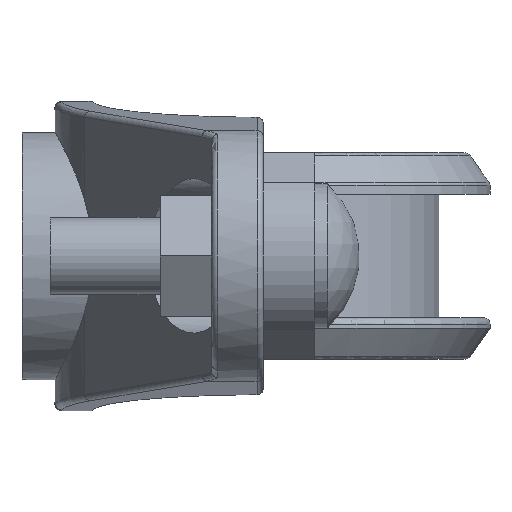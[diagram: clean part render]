
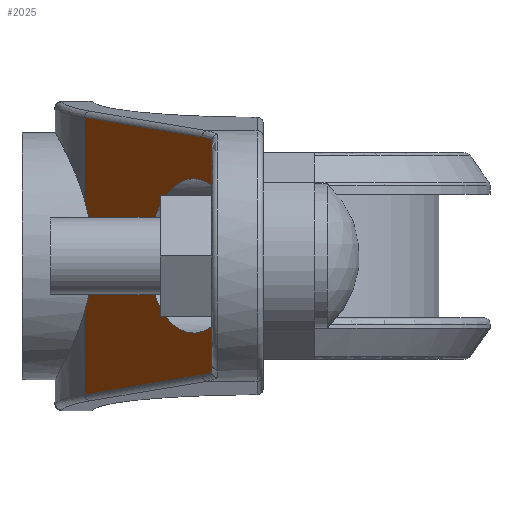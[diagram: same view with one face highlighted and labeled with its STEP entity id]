
A CAD part, left-side view. The second image highlights one B-rep face of the part: STEP entity #2025.
In plain terms, the highlighted planar face has unit normal (-0.5, 0.866, 0).
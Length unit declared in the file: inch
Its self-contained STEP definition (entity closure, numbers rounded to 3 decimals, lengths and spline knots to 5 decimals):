
#99=PLANE('',#2225);
#114=LINE('',#3108,#253);
#116=LINE('',#3179,#255);
#119=LINE('',#3291,#258);
#120=LINE('',#3294,#259);
#132=LINE('',#3337,#271);
#227=LINE('',#3849,#366);
#253=VECTOR('',#2332,0.3937);
#255=VECTOR('',#2348,0.3937);
#258=VECTOR('',#2375,0.3937);
#259=VECTOR('',#2378,0.3937);
#271=VECTOR('',#2392,0.3937);
#366=VECTOR('',#2719,0.3937);
#510=FACE_OUTER_BOUND('',#618,.T.);
#618=EDGE_LOOP('',(#1688,#1689,#1690,#1691,#1692,#1693,#1694,#1695,#1696,
#1697,#1698,#1699));
#653=B_SPLINE_CURVE_WITH_KNOTS('',3,(#3164,#3165,#3166,#3167),
 .UNSPECIFIED.,.F.,.F.,(4,4),(-0.57521,-0.56612),
 .UNSPECIFIED.);
#654=B_SPLINE_CURVE_WITH_KNOTS('',3,(#3170,#3171,#3172,#3173),
 .UNSPECIFIED.,.F.,.F.,(4,4),(-0.16738,-0.1583),
 .UNSPECIFIED.);
#763=ELLIPSE('',#2070,0.66973,0.58);
#772=ELLIPSE('',#2091,0.66973,0.58);
#784=ELLIPSE('',#2222,0.69282,0.6);
#786=ELLIPSE('',#2226,0.43301,0.375);
#788=VERTEX_POINT('',#2883);
#789=VERTEX_POINT('',#2884);
#806=VERTEX_POINT('',#3098);
#808=VERTEX_POINT('',#3104);
#811=VERTEX_POINT('',#3131);
#812=VERTEX_POINT('',#3163);
#813=VERTEX_POINT('',#3168);
#814=VERTEX_POINT('',#3175);
#824=VERTEX_POINT('',#3290);
#825=VERTEX_POINT('',#3292);
#837=VERTEX_POINT('',#3318);
#948=VERTEX_POINT('',#3825);
#975=EDGE_CURVE('',#788,#789,#763,.T.);
#1002=EDGE_CURVE('',#806,#808,#114,.T.);
#1004=EDGE_CURVE('',#808,#811,#772,.T.);
#1007=EDGE_CURVE('',#811,#812,#653,.T.);
#1009=EDGE_CURVE('',#813,#788,#654,.T.);
#1012=EDGE_CURVE('',#789,#814,#116,.T.);
#1027=EDGE_CURVE('',#812,#824,#119,.T.);
#1029=EDGE_CURVE('',#825,#813,#120,.T.);
#1042=EDGE_CURVE('',#806,#837,#132,.T.);
#1209=EDGE_CURVE('',#837,#948,#784,.T.);
#1211=EDGE_CURVE('',#825,#824,#786,.T.);
#1212=EDGE_CURVE('',#948,#814,#227,.T.);
#1688=ORIENTED_EDGE('',*,*,#975,.F.);
#1689=ORIENTED_EDGE('',*,*,#1009,.F.);
#1690=ORIENTED_EDGE('',*,*,#1029,.F.);
#1691=ORIENTED_EDGE('',*,*,#1211,.T.);
#1692=ORIENTED_EDGE('',*,*,#1027,.F.);
#1693=ORIENTED_EDGE('',*,*,#1007,.F.);
#1694=ORIENTED_EDGE('',*,*,#1004,.F.);
#1695=ORIENTED_EDGE('',*,*,#1002,.F.);
#1696=ORIENTED_EDGE('',*,*,#1042,.T.);
#1697=ORIENTED_EDGE('',*,*,#1209,.T.);
#1698=ORIENTED_EDGE('',*,*,#1212,.T.);
#1699=ORIENTED_EDGE('',*,*,#1012,.F.);
#2025=ADVANCED_FACE('',(#510),#99,.F.);
#2070=AXIS2_PLACEMENT_3D('',#2885,#2289,#2290);
#2091=AXIS2_PLACEMENT_3D('',#3132,#2335,#2336);
#2222=AXIS2_PLACEMENT_3D('',#3844,#2709,#2710);
#2225=AXIS2_PLACEMENT_3D('',#3847,#2715,#2716);
#2226=AXIS2_PLACEMENT_3D('',#3848,#2717,#2718);
#2289=DIRECTION('center_axis',(0.5,-0.866,0.));
#2290=DIRECTION('ref_axis',(-0.866,-0.5,0.));
#2332=DIRECTION('',(-0.863,-0.498,-0.084));
#2335=DIRECTION('center_axis',(0.5,-0.866,0.));
#2336=DIRECTION('ref_axis',(-0.866,-0.5,0.));
#2348=DIRECTION('',(0.863,0.498,-0.084));
#2375=DIRECTION('',(0.,0.,-1.));
#2378=DIRECTION('',(0.,0.,-1.));
#2392=DIRECTION('',(0.,0.,-1.));
#2709=DIRECTION('center_axis',(0.5,-0.866,0.));
#2710=DIRECTION('ref_axis',(-0.866,-0.5,0.));
#2715=DIRECTION('center_axis',(0.5,-0.866,0.));
#2716=DIRECTION('ref_axis',(0.866,0.5,0.));
#2717=DIRECTION('center_axis',(0.5,-0.866,0.));
#2718=DIRECTION('ref_axis',(-0.866,-0.5,0.));
#2719=DIRECTION('',(0.,0.,-1.));
#2883=CARTESIAN_POINT('',(-1.60347,0.24976,-0.56323));
#2884=CARTESIAN_POINT('',(-1.521,0.29738,-0.57729));
#2885=CARTESIAN_POINT('Origin',(-1.465,0.32971,0.));
#3098=CARTESIAN_POINT('',(-0.535,0.86665,0.67294));
#3104=CARTESIAN_POINT('',(-1.521,0.29738,0.57729));
#3108=CARTESIAN_POINT('',(-1.64095,0.22813,0.56565));
#3131=CARTESIAN_POINT('',(-1.60347,0.24976,0.56323));
#3132=CARTESIAN_POINT('Origin',(-1.465,0.32971,0.));
#3163=CARTESIAN_POINT('',(-1.60306,0.25,0.55944));
#3164=CARTESIAN_POINT('Ctrl Pts',(-1.60347,0.24976,0.56323));
#3165=CARTESIAN_POINT('Ctrl Pts',(-1.6032,0.24992,0.562));
#3166=CARTESIAN_POINT('Ctrl Pts',(-1.60306,0.25,0.56063));
#3167=CARTESIAN_POINT('Ctrl Pts',(-1.60306,0.25,0.55944));
#3168=CARTESIAN_POINT('',(-1.60306,0.25,-0.55944));
#3170=CARTESIAN_POINT('Ctrl Pts',(-1.60306,0.25,-0.55944));
#3171=CARTESIAN_POINT('Ctrl Pts',(-1.60306,0.25,-0.56063));
#3172=CARTESIAN_POINT('Ctrl Pts',(-1.6032,0.24992,-0.562));
#3173=CARTESIAN_POINT('Ctrl Pts',(-1.60347,0.24976,-0.56323));
#3175=CARTESIAN_POINT('',(-0.535,0.86665,-0.67294));
#3179=CARTESIAN_POINT('',(-1.10101,0.53986,-0.61803));
#3290=CARTESIAN_POINT('',(-1.60306,0.25,0.34234));
#3291=CARTESIAN_POINT('',(-1.60306,0.25,0.));
#3292=CARTESIAN_POINT('',(-1.60306,0.25,-0.34234));
#3294=CARTESIAN_POINT('',(-1.60306,0.25,0.));
#3318=CARTESIAN_POINT('',(-0.535,0.86665,0.27162));
#3337=CARTESIAN_POINT('',(-0.535,0.86665,0.));
#3825=CARTESIAN_POINT('',(-0.535,0.86665,-0.27162));
#3844=CARTESIAN_POINT('Origin',(0.,1.17553,0.));
#3847=CARTESIAN_POINT('Origin',(-1.60306,0.25,0.));
#3848=CARTESIAN_POINT('Origin',(-1.45,0.33837,0.));
#3849=CARTESIAN_POINT('',(-0.535,0.86665,0.));
